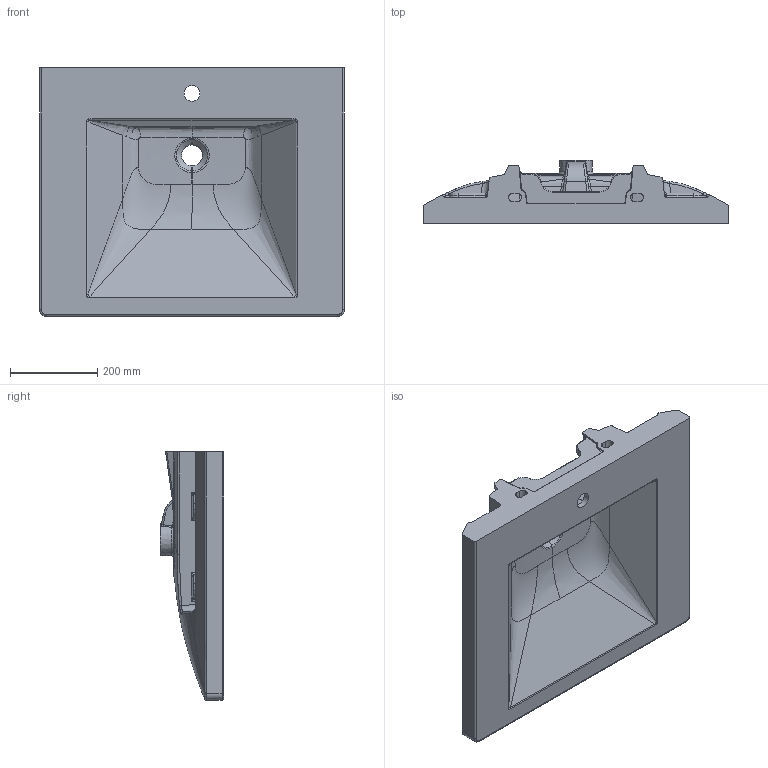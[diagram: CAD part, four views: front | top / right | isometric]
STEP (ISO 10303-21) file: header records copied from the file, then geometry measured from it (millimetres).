
FILE_DESCRIPTION (( 'STEP AP203' ), '1' );
FILE_NAME ('THI200_DIS.STEP', '2017-12-13T11:27:41', ( '' ), ( '' ), 'SwSTEP 2.0', 'SolidWorks 2018', '' );
FILE_SCHEMA (( 'CONFIG_CONTROL_DESIGN' ));
Length unit declared in the file: millimetre
Products named in the file (1): THI200_DIS
Bounding box: 700 x 146.22 x 570 mm (x, y, z)
Volume: 19573525.7 mm3; surface area: 1134757.9 mm2
Topology: 1 solids, 1 shells, 504 faces, 1214 edges, 688 vertices
Faces by surface type: bspline 250, cylinder 138, plane 64, torus 30, sphere 20, cone 2
Full cylindrical faces by diameter (mm): 36 x1
Entity records: 57342 total; most frequent: CARTESIAN_POINT 47732, ORIENTED_EDGE 2370, DIRECTION 1464, EDGE_CURVE 1185, VERTEX_POINT 688, AXIS2_PLACEMENT_3D 579, EDGE_LOOP 517, FACE_OUTER_BOUND 505
